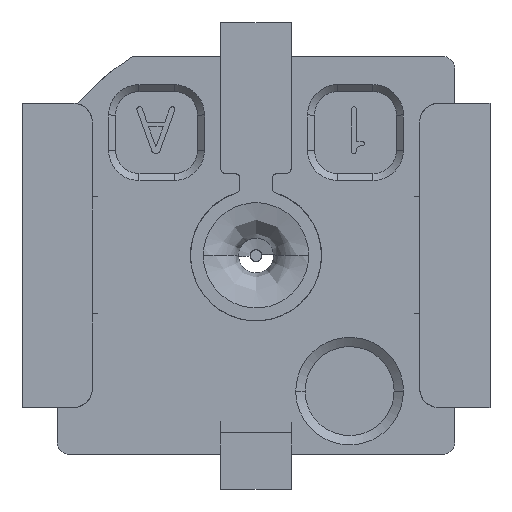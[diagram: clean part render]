
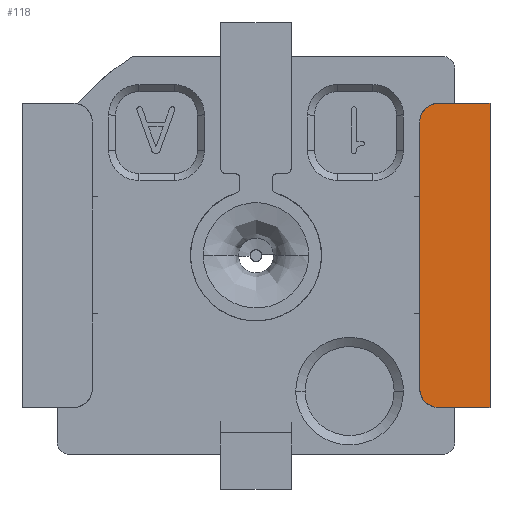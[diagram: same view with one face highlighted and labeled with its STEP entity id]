
A CAD part, top view. The second image highlights one B-rep face of the part: STEP entity #118.
In plain terms, the highlighted free-form (B-spline) face has degree [1, 1] with [2, 2] control points.
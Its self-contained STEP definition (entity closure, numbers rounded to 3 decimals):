
#118 = ADVANCED_FACE ( 'NONE', ( #9278 ), #9451, .T. ) ;
#219 = EDGE_CURVE ( 'NONE', #6357, #6160, #10220, .T. ) ;
#382 = CARTESIAN_POINT ( 'NONE',  ( 0.85, -0.65, 0.555 ) ) ;
#577 = VERTEX_POINT ( 'NONE', #13302 ) ;
#1905 = CARTESIAN_POINT ( 'NONE',  ( 1., -0.65, 0.555 ) ) ;
#2278 = CARTESIAN_POINT ( 'NONE',  ( 0.85, -0.65, 0.555 ) ) ;
#2313 = VERTEX_POINT ( 'NONE', #14816 ) ;
#3134 = CARTESIAN_POINT ( 'NONE',  ( 0.78, -0.65, 0.555 ) ) ;
#3235 = EDGE_CURVE ( 'NONE', #577, #10214, #16179, .T. ) ;
#3518 = B_SPLINE_CURVE_WITH_KNOTS ( 'NONE', 1,
 ( #4744, #11201 ),
 .UNSPECIFIED., .F., .F.,
 ( 2, 2 ),
 ( 0., 0.682 ),
 .UNSPECIFIED. ) ;
#3976 = EDGE_CURVE ( 'NONE', #14501, #2313, #6760, .T. ) ;
#4474 = ORIENTED_EDGE ( 'NONE', *, *, #12747, .F. ) ;
#4744 = CARTESIAN_POINT ( 'NONE',  ( 1., 0.65, 0.555 ) ) ;
#4841 = ORIENTED_EDGE ( 'NONE', *, *, #3976, .T. ) ;
#4888 = ORIENTED_EDGE ( 'NONE', *, *, #16687, .T. ) ;
#4903 = CARTESIAN_POINT ( 'NONE',  ( 0.7, 0.57, 0.555 ) ) ;
#5386 = CARTESIAN_POINT ( 'NONE',  ( 1., -0.65, 0.555 ) ) ;
#5401 = CARTESIAN_POINT ( 'NONE',  ( 0.694, -0.676, 0.555 ) ) ;
#5952 = CARTESIAN_POINT ( 'NONE',  ( 0.709, 0.612, 0.555 ) ) ;
#6160 = VERTEX_POINT ( 'NONE', #7567 ) ;
#6221 = CARTESIAN_POINT ( 'NONE',  ( 1., 0.65, 0.555 ) ) ;
#6294 = CARTESIAN_POINT ( 'NONE',  ( 0.78, 0.65, 0.555 ) ) ;
#6306 = CARTESIAN_POINT ( 'NONE',  ( 1., -0.65, 0.555 ) ) ;
#6331 = CARTESIAN_POINT ( 'NONE',  ( 0.78, 0.65, 0.555 ) ) ;
#6357 = VERTEX_POINT ( 'NONE', #13888 ) ;
#6483 = EDGE_LOOP ( 'NONE', ( #7335, #14589, #4841, #4474, #9702, #4888, #6520, #10935 ) ) ;
#6520 = ORIENTED_EDGE ( 'NONE', *, *, #9882, .T. ) ;
#6604 = B_SPLINE_CURVE_WITH_KNOTS ( 'NONE', 3,
 ( #4903, #15338, #5952, #8783, #14027, #6294 ),
 .UNSPECIFIED., .F., .F.,
 ( 4, 2, 4 ),
 ( 0., 0.785, 1.571 ),
 .UNSPECIFIED. ) ;
#6760 = B_SPLINE_CURVE_WITH_KNOTS ( 'NONE', 1,
 ( #6331, #14150 ),
 .UNSPECIFIED., .F., .F.,
 ( 2, 2 ),
 ( 0., 0.318 ),
 .UNSPECIFIED. ) ;
#7059 = CARTESIAN_POINT ( 'NONE',  ( 0.759, -0.65, 0.555 ) ) ;
#7335 = ORIENTED_EDGE ( 'NONE', *, *, #16405, .T. ) ;
#7392 = CARTESIAN_POINT ( 'NONE',  ( 0.7, -0.591, 0.555 ) ) ;
#7399 = B_SPLINE_CURVE_WITH_KNOTS ( 'NONE', 1,
 ( #11195, #3134 ),
 .UNSPECIFIED., .F., .F.,
 ( 2, 2 ),
 ( 0.682, 1. ),
 .UNSPECIFIED. ) ;
#7567 = CARTESIAN_POINT ( 'NONE',  ( 0.7, -0.57, 0.555 ) ) ;
#7663 = VERTEX_POINT ( 'NONE', #8392 ) ;
#8299 = B_SPLINE_CURVE_WITH_KNOTS ( 'NONE', 1,
 ( #1905, #382 ),
 .UNSPECIFIED., .F., .F.,
 ( 2, 2 ),
 ( 0., 0.682 ),
 .UNSPECIFIED. ) ;
#8339 = CARTESIAN_POINT ( 'NONE',  ( 0.78, -0.65, 0.555 ) ) ;
#8392 = CARTESIAN_POINT ( 'NONE',  ( 0.7, 0.57, 0.555 ) ) ;
#8606 = VERTEX_POINT ( 'NONE', #2278 ) ;
#8776 = CARTESIAN_POINT ( 'NONE',  ( 0.7, -0.57, 0.555 ) ) ;
#8783 = CARTESIAN_POINT ( 'NONE',  ( 0.738, 0.641, 0.555 ) ) ;
#9278 = FACE_OUTER_BOUND ( 'NONE', #6483, .T. ) ;
#9363 = CARTESIAN_POINT ( 'NONE',  ( 1.006, 0.676, 0.555 ) ) ;
#9451 = B_SPLINE_SURFACE_WITH_KNOTS ( 'NONE', 1, 1, ( 
 ( #13405, #5401 ),
 ( #9363, #13494 ) ),
 .UNSPECIFIED., .F., .F., .F.,
 ( 2, 2 ),
 ( 2, 2 ),
 ( 0.694, 1.006 ),
 ( -0.676, 0.676 ),
 .UNSPECIFIED. ) ;
#9702 = ORIENTED_EDGE ( 'NONE', *, *, #3235, .T. ) ;
#9882 = EDGE_CURVE ( 'NONE', #8606, #6357, #7399, .T. ) ;
#9979 = CARTESIAN_POINT ( 'NONE',  ( 0.7, 0.57, 0.555 ) ) ;
#10214 = VERTEX_POINT ( 'NONE', #5386 ) ;
#10220 = B_SPLINE_CURVE_WITH_KNOTS ( 'NONE', 3,
 ( #8339, #7059, #12458, #16415, #7392, #15045 ),
 .UNSPECIFIED., .F., .F.,
 ( 4, 2, 4 ),
 ( 0., 0.785, 1.571 ),
 .UNSPECIFIED. ) ;
#10935 = ORIENTED_EDGE ( 'NONE', *, *, #219, .T. ) ;
#11195 = CARTESIAN_POINT ( 'NONE',  ( 0.85, -0.65, 0.555 ) ) ;
#11201 = CARTESIAN_POINT ( 'NONE',  ( 0.85, 0.65, 0.555 ) ) ;
#11975 = B_SPLINE_CURVE_WITH_KNOTS ( 'NONE', 1,
 ( #8776, #9979 ),
 .UNSPECIFIED., .F., .F.,
 ( 2, 2 ),
 ( 0., 1. ),
 .UNSPECIFIED. ) ;
#12458 = CARTESIAN_POINT ( 'NONE',  ( 0.738, -0.641, 0.555 ) ) ;
#12730 = EDGE_CURVE ( 'NONE', #7663, #14501, #6604, .T. ) ;
#12747 = EDGE_CURVE ( 'NONE', #577, #2313, #3518, .T. ) ;
#13302 = CARTESIAN_POINT ( 'NONE',  ( 1., 0.65, 0.555 ) ) ;
#13405 = CARTESIAN_POINT ( 'NONE',  ( 0.694, 0.676, 0.555 ) ) ;
#13494 = CARTESIAN_POINT ( 'NONE',  ( 1.006, -0.676, 0.555 ) ) ;
#13888 = CARTESIAN_POINT ( 'NONE',  ( 0.78, -0.65, 0.555 ) ) ;
#14027 = CARTESIAN_POINT ( 'NONE',  ( 0.759, 0.65, 0.555 ) ) ;
#14150 = CARTESIAN_POINT ( 'NONE',  ( 0.85, 0.65, 0.555 ) ) ;
#14501 = VERTEX_POINT ( 'NONE', #15055 ) ;
#14589 = ORIENTED_EDGE ( 'NONE', *, *, #12730, .T. ) ;
#14816 = CARTESIAN_POINT ( 'NONE',  ( 0.85, 0.65, 0.555 ) ) ;
#15045 = CARTESIAN_POINT ( 'NONE',  ( 0.7, -0.57, 0.555 ) ) ;
#15055 = CARTESIAN_POINT ( 'NONE',  ( 0.78, 0.65, 0.555 ) ) ;
#15338 = CARTESIAN_POINT ( 'NONE',  ( 0.7, 0.591, 0.555 ) ) ;
#16179 = B_SPLINE_CURVE_WITH_KNOTS ( 'NONE', 1,
 ( #6221, #6306 ),
 .UNSPECIFIED., .F., .F.,
 ( 2, 2 ),
 ( 0., 1. ),
 .UNSPECIFIED. ) ;
#16405 = EDGE_CURVE ( 'NONE', #6160, #7663, #11975, .T. ) ;
#16415 = CARTESIAN_POINT ( 'NONE',  ( 0.709, -0.612, 0.555 ) ) ;
#16687 = EDGE_CURVE ( 'NONE', #10214, #8606, #8299, .T. ) ;
